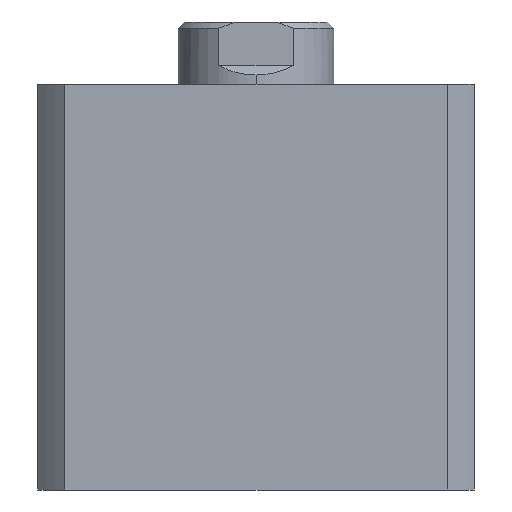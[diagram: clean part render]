
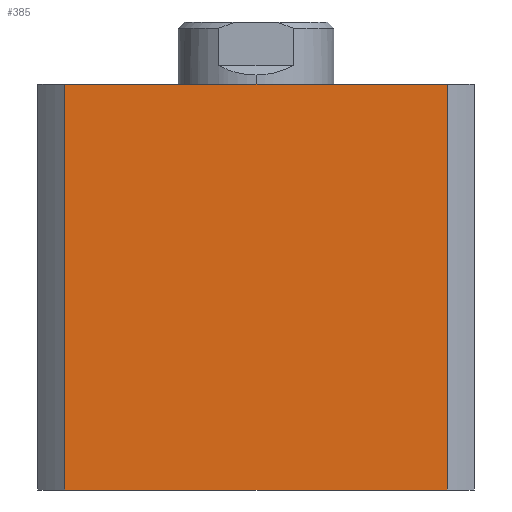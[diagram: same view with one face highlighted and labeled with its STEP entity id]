
A CAD part, left-side view. The second image highlights one B-rep face of the part: STEP entity #385.
In plain terms, the highlighted planar face has unit normal (-1, 0, 0).
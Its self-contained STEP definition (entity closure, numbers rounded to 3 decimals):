
#385 = ADVANCED_FACE ( 'NONE', ( #4902 ), #4304, .F. ) ;
#874 = CARTESIAN_POINT ( 'NONE',  ( -35., 0., 65. ) ) ;
#878 = DIRECTION ( 'NONE',  ( 0., 0., -1. ) ) ;
#879 = DIRECTION ( 'NONE',  ( 0., -1., 0. ) ) ;
#880 = CARTESIAN_POINT ( 'NONE',  ( -35., -30.615, 65. ) ) ;
#881 = CARTESIAN_POINT ( 'NONE',  ( -35., 30.615, 65. ) ) ;
#882 = DIRECTION ( 'NONE',  ( 0., 0., -1. ) ) ;
#1239 = EDGE_LOOP ( 'NONE', ( #2049, #2050, #2051, #2052 ) ) ;
#1497 = VECTOR ( 'NONE', #3397, 1000. ) ;
#1500 = LINE ( 'NONE', #3396, #1497 ) ;
#1814 = VERTEX_POINT ( 'NONE', #4760 ) ;
#1815 = VERTEX_POINT ( 'NONE', #4759 ) ;
#1905 = VERTEX_POINT ( 'NONE', #4665 ) ;
#1950 = VERTEX_POINT ( 'NONE', #4629 ) ;
#2049 = ORIENTED_EDGE ( 'NONE', *, *, #3741, .T. ) ;
#2050 = ORIENTED_EDGE ( 'NONE', *, *, #3201, .F. ) ;
#2051 = ORIENTED_EDGE ( 'NONE', *, *, #3200, .F. ) ;
#2052 = ORIENTED_EDGE ( 'NONE', *, *, #3203, .T. ) ;
#2384 = VECTOR ( 'NONE', #878, 1000. ) ;
#2386 = LINE ( 'NONE', #881, #2384 ) ;
#2387 = VECTOR ( 'NONE', #882, 1000. ) ;
#2389 = VECTOR ( 'NONE', #879, 1000. ) ;
#2390 = LINE ( 'NONE', #880, #2387 ) ;
#2395 = LINE ( 'NONE', #874, #2389 ) ;
#3200 = EDGE_CURVE ( 'NONE', #1814, #1815, #2395, .T. ) ;
#3201 = EDGE_CURVE ( 'NONE', #1815, #1950, #2390, .T. ) ;
#3203 = EDGE_CURVE ( 'NONE', #1814, #1905, #2386, .T. ) ;
#3396 = CARTESIAN_POINT ( 'NONE',  ( -35., 0., 0. ) ) ;
#3397 = DIRECTION ( 'NONE',  ( 0., -1., 0. ) ) ;
#3741 = EDGE_CURVE ( 'NONE', #1905, #1950, #1500, .T. ) ;
#3821 = AXIS2_PLACEMENT_3D ( 'NONE', #4310, #4301, #4300 ) ;
#4300 = DIRECTION ( 'NONE',  ( 0., 1., 0. ) ) ;
#4301 = DIRECTION ( 'NONE',  ( 1., 0., 0. ) ) ;
#4304 = PLANE ( 'NONE',  #3821 ) ;
#4310 = CARTESIAN_POINT ( 'NONE',  ( -35., 0., 65. ) ) ;
#4629 = CARTESIAN_POINT ( 'NONE',  ( -35., -30.615, 0. ) ) ;
#4665 = CARTESIAN_POINT ( 'NONE',  ( -35., 30.615, 0. ) ) ;
#4759 = CARTESIAN_POINT ( 'NONE',  ( -35., -30.615, 65. ) ) ;
#4760 = CARTESIAN_POINT ( 'NONE',  ( -35., 30.615, 65. ) ) ;
#4902 = FACE_OUTER_BOUND ( 'NONE', #1239, .T. ) ;
